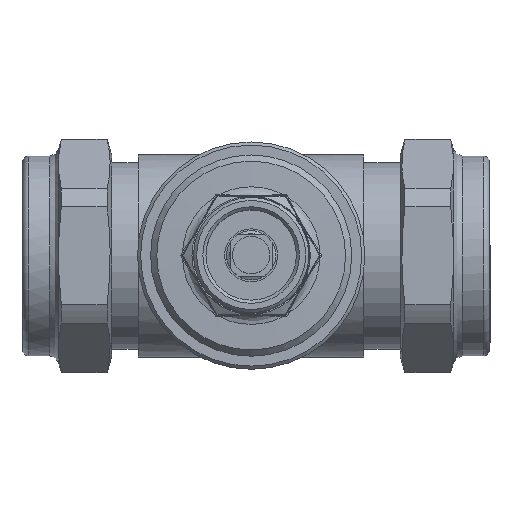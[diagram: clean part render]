
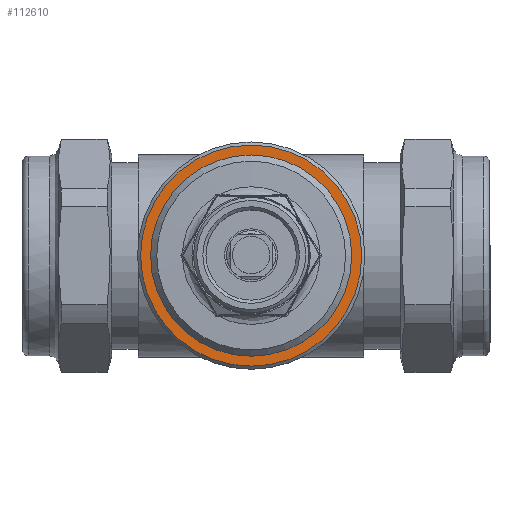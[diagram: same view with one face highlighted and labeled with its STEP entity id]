
A CAD part, top view. The second image highlights one B-rep face of the part: STEP entity #112610.
In plain terms, the highlighted planar face has unit normal (0, 0, 1).
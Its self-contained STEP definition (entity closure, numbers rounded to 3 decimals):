
#14206=CARTESIAN_POINT('',(45.884,0.0,36.7));
#14207=VERTEX_POINT('',#14206);
#14208=CARTESIAN_POINT('',(29.734,0.0,36.7));
#14209=DIRECTION('',(0.0,0.0,-1.0));
#14210=DIRECTION('',(1.0,0.0,0.0));
#14211=AXIS2_PLACEMENT_3D('',#14208,#14209,#14210);
#14212=CIRCLE('',#14211,16.15);
#14213=EDGE_CURVE('',#14207,#14207,#14212,.T.);
#112584=CARTESIAN_POINT('',(47.484,0.,36.7));
#112585=VERTEX_POINT('',#112584);
#112586=CARTESIAN_POINT('',(29.734,0.0,36.7));
#112587=DIRECTION('',(0.0,0.0,-1.0));
#112588=DIRECTION('',(-1.0,0.0,0.0));
#112589=AXIS2_PLACEMENT_3D('',#112586,#112587,#112588);
#112590=CIRCLE('',#112589,17.75);
#112591=EDGE_CURVE('',#112585,#112585,#112590,.T.);
#112599=CARTESIAN_POINT('',(29.733,0.,36.7));
#112600=DIRECTION('',(0.0,0.0,1.0));
#112601=DIRECTION('',(1.0,0.0,0.0));
#112602=AXIS2_PLACEMENT_3D('',#112599,#112600,#112601);
#112603=PLANE('',#112602);
#112604=ORIENTED_EDGE('',*,*,#112591,.F.);
#112605=EDGE_LOOP('',(#112604));
#112606=FACE_OUTER_BOUND('',#112605,.T.);
#112607=ORIENTED_EDGE('',*,*,#14213,.T.);
#112608=EDGE_LOOP('',(#112607));
#112609=FACE_BOUND('',#112608,.T.);
#112610=ADVANCED_FACE('',(#112606,#112609),#112603,.T.);
